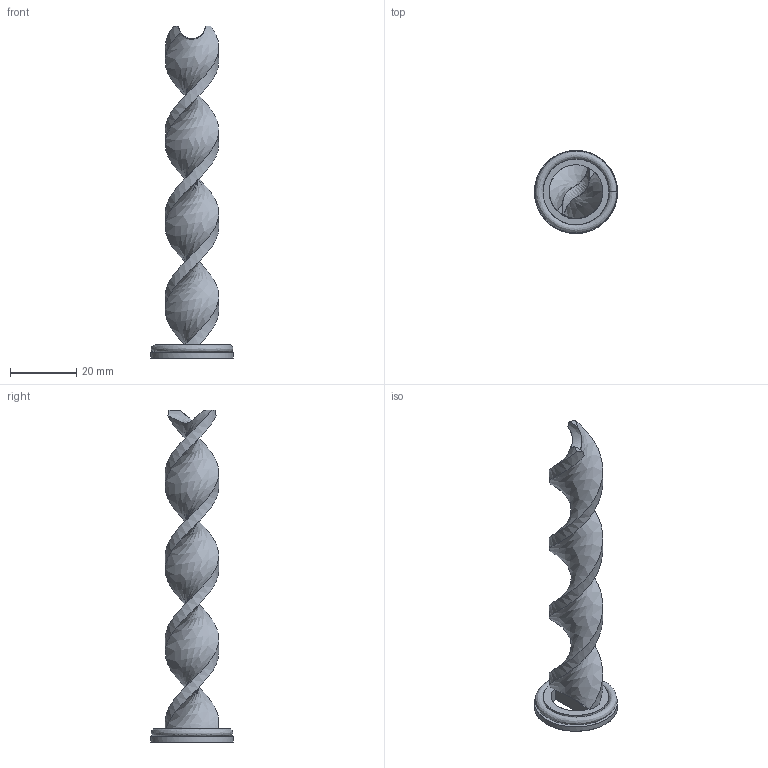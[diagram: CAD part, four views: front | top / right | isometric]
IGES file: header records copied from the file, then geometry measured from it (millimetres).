
Global section: file name: E:\UnigraphicsGraphicData\MISUMI_MOLD-PARTS\NX\3d_wrcan16-100_00626_r00.igs; native system: NX V5.0; preprocessor: UGS NX IGES V5.0; author: MISUMI; date: 20101115.183631; units: millimetre
Bounding box: 25 x 25 x 100 mm (x, y, z)
Surface area: 6005.7 mm2 (no closed solid volume)
Topology: 0 solids, 0 shells, 21 faces, 148 edges, 141 vertices
Faces by surface type: bspline 21
